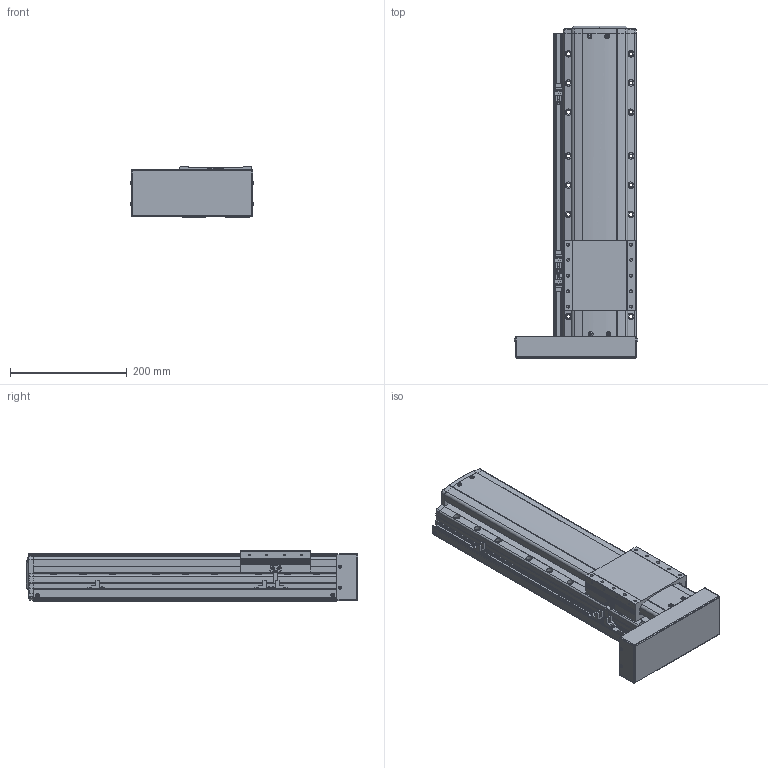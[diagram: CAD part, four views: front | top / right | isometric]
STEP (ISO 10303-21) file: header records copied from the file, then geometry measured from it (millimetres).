
FILE_DESCRIPTION(('STEP AP214'),'1');
FILE_NAME('Z:/Web/3D/PSA125/STP/PSA125-300 (3D)/PSA125ㅁㅁ-300PL+3SL.stp','2014-06-22T23:36:47',(' '),(' '),'Spatial InterOp 3D',' ',' ');
FILE_SCHEMA(('automotive_design'));
Length unit declared in the file: millimetre
Products named in the file (41): 스크루 : Round - M4.0 x 10.0; RRCV-PA120; SLIDE; BASE; FRCV-PA120-1(기준 뿔 제거); RR1500; 스크루 : Round - M4.0 x 6.0; 너트 : Square - M10.0 x 220.7419; BTCV - 60A; 스크루 : Round - M3.0 x 6.0; EE-SX674; SBK-SX674-352; M3.0 x 6.0; SRL-16x17-380L; SGD-PA95; 스크루 : Round - M3.0 x 8.0
Bounding box: 212.13 x 568.6 x 86 mm (x, y, z)
Volume: 5194972.6 mm3; surface area: 535975.4 mm2
Topology: 41 solids, 41 shells, 2439 faces, 6493 edges, 4166 vertices
Faces by surface type: plane 1407, cylinder 676, cone 236, sphere 64, bspline 31, torus 25
Entity records: 97432 total; most frequent: CARTESIAN_POINT 15823, DIRECTION 12973, ORIENTED_EDGE 12726, EDGE_CURVE 6363, AXIS2_PLACEMENT_3D 4329, LINE 4315, VECTOR 4315, VERTEX_POINT 4166
